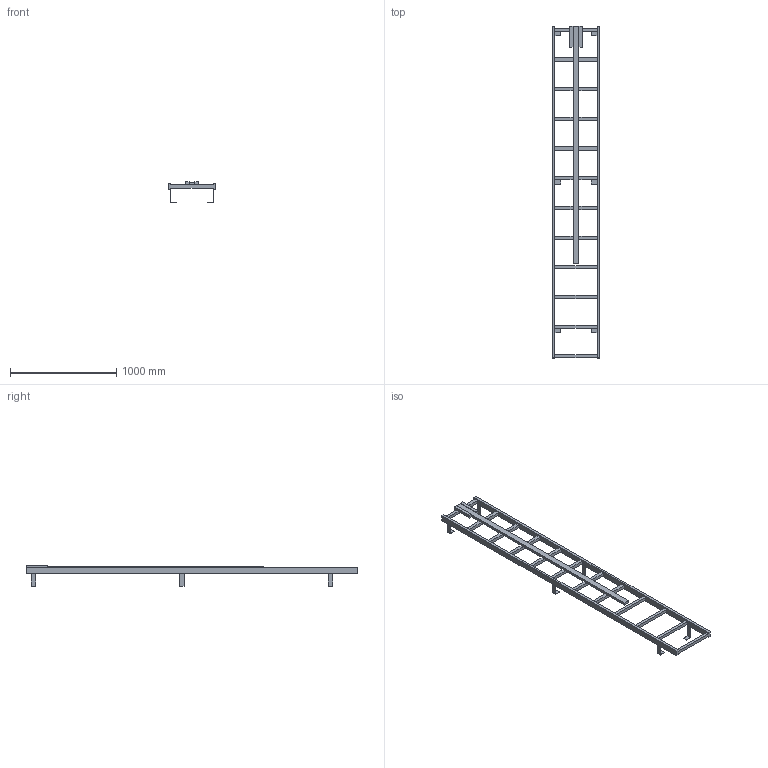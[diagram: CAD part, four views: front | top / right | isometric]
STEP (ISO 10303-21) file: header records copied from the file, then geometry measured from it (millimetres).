
FILE_DESCRIPTION((''),'2;1');
FILE_NAME('017_000109','2017-06-08T',('gm'),('HUBER SE'),'PRO/ENGINEER BY PARAMETRIC TECHNOLOGY CORPORATION, 2015280','PRO/ENGINEER BY PARAMETRIC TECHNOLOGY CORPORATION, 2015280','');
FILE_SCHEMA(('CONFIG_CONTROL_DESIGN'));
Length unit declared in the file: millimetre
Products named in the file (1): 017_000109
Bounding box: 450 x 3130 x 195 mm (x, y, z)
Volume: 16708500 mm3; surface area: 2038980 mm2
Topology: 1 solids, 1 shells, 136 faces, 511 edges, 357 vertices
Faces by surface type: plane 136
Entity records: 5220 total; most frequent: CARTESIAN_POINT 1057, ORIENTED_EDGE 820, DIRECTION 762, VECTOR 464, LINE 464, EDGE_CURVE 410, VERTEX_POINT 256, EDGE_LOOP 152
